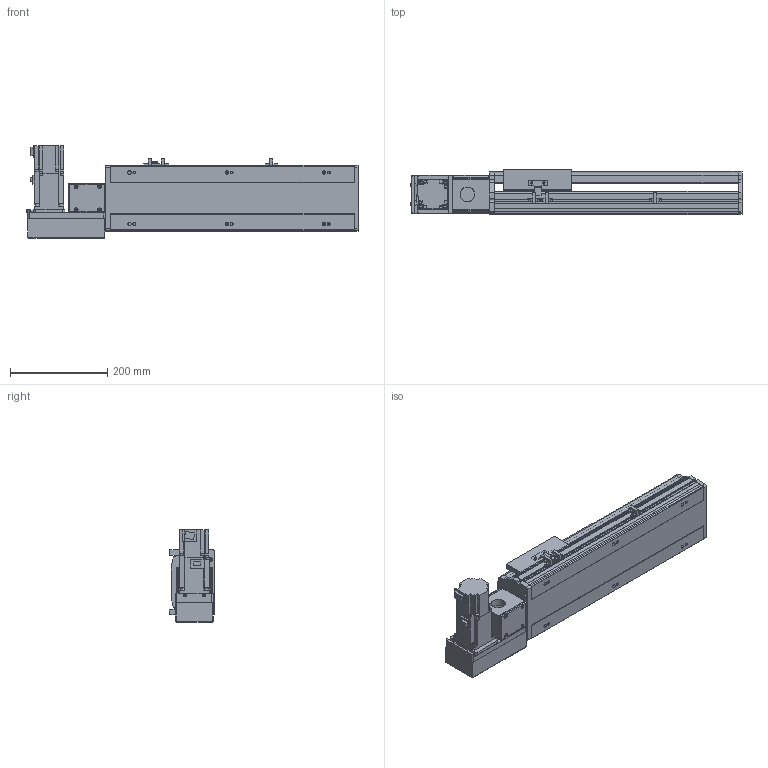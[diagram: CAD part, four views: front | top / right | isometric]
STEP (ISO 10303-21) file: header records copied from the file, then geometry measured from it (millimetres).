
FILE_DESCRIPTION(/* description */ ('STEP AP214'),/* implementation_level */ '2;1');
FILE_NAME(/* name */ 'PBS140S-P40-S250-L-T40-C1-N(0)',/* time_stamp */ '2022-06-09T02:00:34+02:00',/* author */ ('License CC BY-ND 4.0'),/* organization */ ('CADENAS'),/* preprocessor_version */ 'ST-DEVELOPER v18.102',/* originating_system */ 'PARTsolutions',/* authorisation */ ' ');
FILE_SCHEMA (('AUTOMOTIVE_DESIGN {1 0 10303 214 3 1 1}'));
Length unit declared in the file: millimetre
Products named in the file (7): PBS140S-P40-S250-L-T40-C1-N(0); PBS140S_sensor; PBS140S_plant; PBS140S_sliser; T40-p1; PBS140ST-L_motors; PBS140S-S250()_body
Assembly tree (8 placements, depth 2):
  PBS140S-P40-S250-L-T40-C1-N(0)
    PBS140S_sensor  x3
    PBS140S_plant
    PBS140S_sliser
    T40-p1
    PBS140ST-L_motors
    PBS140S-S250()_body
Bounding box: 683 x 93 x 189.7 mm (x, y, z)
Volume: 3625691.4 mm3; surface area: 659602.8 mm2
Topology: 8 solids, 8 shells, 1019 faces, 2711 edges, 1775 vertices
Faces by surface type: plane 672, cylinder 305, cone 32, sphere 8, torus 2
Full cylindrical faces by diameter (mm): 3.242 x4, 4 x2, 4.134 x4, 4.4 x8, 4.5 x2, 4.8 x4, 4.917 x14, 5.5 x7, 6 x2, 7 x8, 7.5 x8, 8 x12, 8.5 x4, 10.5 x6, 14 x1, 30 x2, 50 x2
Entity records: 29206 total; most frequent: CARTESIAN_POINT 5256, DIRECTION 4998, ORIENTED_EDGE 4762, EDGE_CURVE 2381, AXIS2_PLACEMENT_3D 1709, VERTEX_POINT 1633, LINE 1580, VECTOR 1580
